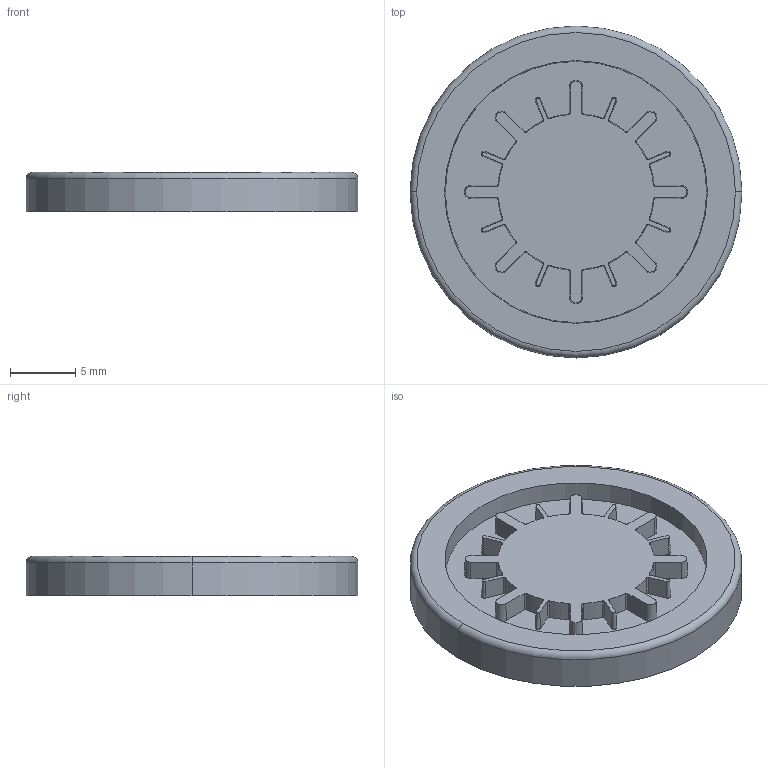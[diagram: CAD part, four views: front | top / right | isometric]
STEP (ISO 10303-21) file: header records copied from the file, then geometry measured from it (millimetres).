
FILE_DESCRIPTION((''),'2;1');
FILE_NAME('RANK9','2015-05-15T',('Daniel'),(''),'PRO/ENGINEER BY PARAMETRIC TECHNOLOGY CORPORATION, 2014000','PRO/ENGINEER BY PARAMETRIC TECHNOLOGY CORPORATION, 2014000','');
FILE_SCHEMA(('CONFIG_CONTROL_DESIGN'));
Length unit declared in the file: millimetre
Products named in the file (1): RANK9
Bounding box: 25.4 x 25.4 x 3 mm (x, y, z)
Volume: 1245.6 mm3; surface area: 1473.7 mm2
Topology: 1 solids, 1 shells, 106 faces, 304 edges, 202 vertices
Faces by surface type: cone 66, plane 36, torus 2, cylinder 2
Entity records: 3570 total; most frequent: DIRECTION 656, CARTESIAN_POINT 612, ORIENTED_EDGE 608, EDGE_CURVE 304, AXIS2_PLACEMENT_3D 246, VERTEX_POINT 202, VECTOR 164, LINE 164
